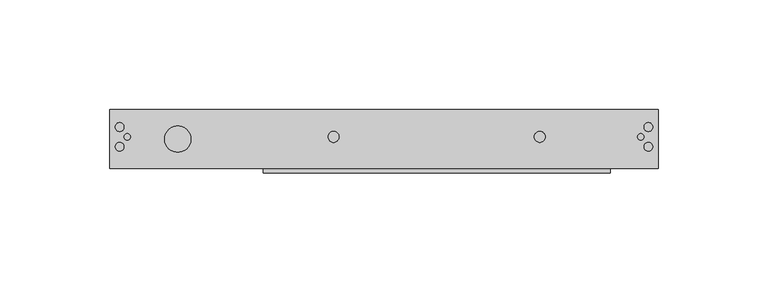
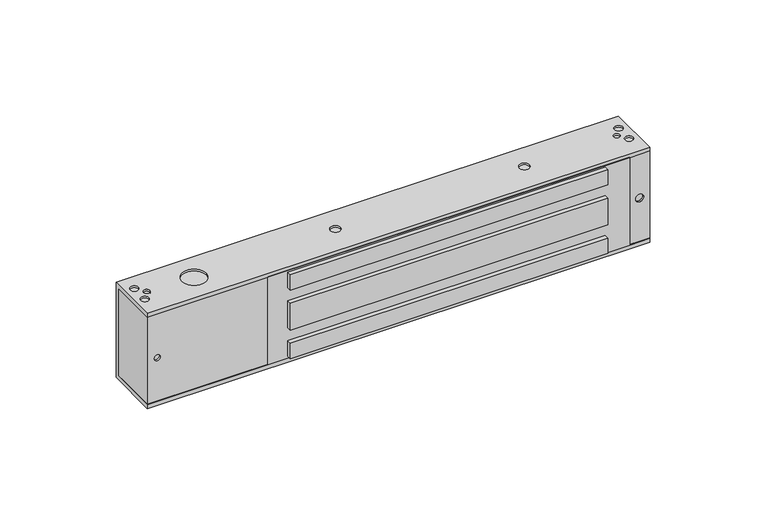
"""IFC4 building model written with IfcOpenShell, lengths in millimetres: proxy geometry, Электромагнитный_замок_ML-350ALN_AccordTec_R19 : Электромагнитный_замок_ML-350ALN_AccordTec_R19."""

import ifcopenshell
import ifcopenshell.guid

model = None  # the IFC model being written
_history = None  # IfcOwnerHistory: only IFC2X3 demands one
_inside = {}  # id of a spatial element -> (the spatial element, [elements in it])
_under = {}  # id of a project, library or spatial element -> (it, [spatial elements below it])
_declared = {}  # id of a project -> (the project, [libraries it declares])
_typed = {}  # id of a type object -> (the type object, [elements of that type])
_made_of = {}  # id of a material, layer set ... -> (it, [elements and type objects made of it])


def new_model(schema):
    """Start an empty IFC model of exactly this schema.

    Asked for "IFC4X3", IfcOpenShell would pick the latest addendum, in which some entities
    have other attributes; the version numbers below select the first issue.
    IFC2X3 requires an IfcOwnerHistory on every rooted entity: one is made here for all.
    """
    global model, _history
    if schema == "IFC4X3":
        model = ifcopenshell.file(schema_version=(4, 3, 0, 0))
    else:
        model = ifcopenshell.file(schema=schema)
    _inside.clear()
    _under.clear()
    _declared.clear()
    _typed.clear()
    _made_of.clear()
    _history = None
    if model.schema == "IFC2X3":
        org = make("IfcOrganization", Name="unknown")
        user = make(
            "IfcPersonAndOrganization",
            ThePerson=make("IfcPerson", FamilyName="unknown"),
            TheOrganization=org,
        )
        app = make(
            "IfcApplication",
            ApplicationDeveloper=org,
            Version="unknown",
            ApplicationFullName="unknown",
            ApplicationIdentifier="unknown",
        )
        _history = make(
            "IfcOwnerHistory",
            OwningUser=user,
            OwningApplication=app,
            ChangeAction="ADDED",
            CreationDate=0,
        )
    return model


def make(cls, **values):
    """One entity of the class cls with the attributes given. An attribute that is None is left unset."""
    return model.create_entity(
        cls, **{name: value for name, value in values.items() if value is not None}
    )


def rooted(cls, **values):
    """An entity with a GlobalId (a new one), such as an element, a storey or a relation."""
    return make(cls, GlobalId=ifcopenshell.guid.new(), OwnerHistory=_history, **values)


def si_unit(unit_type, name, prefix=None):
    """IfcSIUnit, for example si_unit("LENGTHUNIT", "METRE", prefix="MILLI")."""
    return make("IfcSIUnit", UnitType=unit_type, Prefix=prefix, Name=name)


def assignment(units):
    """IfcUnitAssignment: the units of a project."""
    return None if units is None else make("IfcUnitAssignment", Units=units)


def point(xyz):
    """IfcCartesianPoint."""
    return None if xyz is None else make("IfcCartesianPoint", Coordinates=xyz)


def direction(xyz):
    """IfcDirection."""
    return None if xyz is None else make("IfcDirection", DirectionRatios=xyz)


def frame(location, z_axis=None, x_axis=None):
    """IfcAxis2Placement3D, a coordinate frame: its origin and axes. An axis left out is left unset."""
    return make(
        "IfcAxis2Placement3D",
        Location=point(location),
        Axis=direction(z_axis),
        RefDirection=direction(x_axis),
    )


def origin():
    """The frame at (0, 0, 0) with its axes left unset."""
    return frame((0.0, 0.0, 0.0))


def place(relative_to, where):
    """IfcLocalPlacement: puts the frame where relative to a parent placement (None: the world)."""
    return make(
        "IfcLocalPlacement", PlacementRelTo=relative_to, RelativePlacement=where
    )


def context(
    kind, dimensions, precision=None, world=None, true_north=None, identifier=None
):
    """IfcGeometricRepresentationContext, for example the 3D "Model" context."""
    return make(
        "IfcGeometricRepresentationContext",
        ContextIdentifier=identifier,
        ContextType=kind,
        CoordinateSpaceDimension=dimensions,
        Precision=precision,
        WorldCoordinateSystem=world,
        TrueNorth=true_north,
    )


def project(units=None, contexts=None):
    """IfcProject with its units and contexts."""
    return rooted(
        "IfcProject",
        Name="project",
        RepresentationContexts=contexts,
        UnitsInContext=assignment(units),
    )


def spatial(cls, under=None, at=None, **own):
    """A site, building, storey or space (cls), placed at a placement, below another one or the project."""
    s = rooted(cls, ObjectPlacement=at, **own)
    if under is not None:
        _under.setdefault(under.id(), (under, []))[1].append(s)
    return s


def polyline(points):
    """IfcPolyline through the points."""
    return make("IfcPolyline", Points=[point(p) for p in points])


def circle_curve(where, radius):
    """IfcCircle in the frame where."""
    return make("IfcCircle", Position=where, Radius=radius)


def outline(outer, holes=None, kind="AREA"):
    """IfcArbitraryClosedProfileDef: a profile drawn as a closed curve; with holes, ...WithVoids."""
    if holes is None:
        return make("IfcArbitraryClosedProfileDef", ProfileType=kind, OuterCurve=outer)
    return make(
        "IfcArbitraryProfileDefWithVoids",
        ProfileType=kind,
        OuterCurve=outer,
        InnerCurves=holes,
    )


def extrude(swept, where, along, depth):
    """IfcExtrudedAreaSolid: the profile swept, set in the frame where, extruded along a direction by depth."""
    return make(
        "IfcExtrudedAreaSolid",
        SweptArea=swept,
        Position=where,
        ExtrudedDirection=direction(along),
        Depth=depth,
    )


def shape(context_of_items, identifier, shape_type, items):
    """IfcShapeRepresentation: the items that make up one representation, for example the "Body"."""
    return make(
        "IfcShapeRepresentation",
        ContextOfItems=context_of_items,
        RepresentationIdentifier=identifier,
        RepresentationType=shape_type,
        Items=items,
    )


def source(mapping_origin, context_of_items, identifier, shape_type, items):
    """IfcRepresentationMap: a shape defined once, which mapped items show again and again."""
    return make(
        "IfcRepresentationMap",
        MappingOrigin=mapping_origin,
        MappedRepresentation=shape(context_of_items, identifier, shape_type, items),
    )


def transform(
    local_origin,
    x_axis=None,
    y_axis=None,
    z_axis=None,
    scale=None,
    scale2=None,
    scale3=None,
    uniform=True,
):
    """IfcCartesianTransformationOperator3D, or its non-uniform kind. x_axis, y_axis, z_axis: its Axis1, 2, 3."""
    if uniform:
        return make(
            "IfcCartesianTransformationOperator3D",
            Axis1=direction(x_axis),
            Axis2=direction(y_axis),
            LocalOrigin=point(local_origin),
            Scale=scale,
            Axis3=direction(z_axis),
        )
    return make(
        "IfcCartesianTransformationOperator3DnonUniform",
        Axis1=direction(x_axis),
        Axis2=direction(y_axis),
        LocalOrigin=point(local_origin),
        Scale=scale,
        Axis3=direction(z_axis),
        Scale2=scale2,
        Scale3=scale3,
    )


def mapped(mapping_source, mapping_target):
    """IfcMappedItem: shows the shape of a source again, moved by a transform."""
    return make(
        "IfcMappedItem", MappingSource=mapping_source, MappingTarget=mapping_target
    )


def made_of(thing, what):
    """Note that an element or type object is made of a material, layer set ...; save() writes the relation."""
    if what is not None:
        _made_of.setdefault(what.id(), (what, []))[1].append(thing)
    return thing


def element(
    cls,
    number,
    at=None,
    inside=None,
    cuts=None,
    type_object=None,
    material=None,
    context=None,
    identifier="Body",
    shape_type=None,
    held_by="IfcProductDefinitionShape",
    body=None,
    shapes=None,
    **own,
):
    """One element of the class cls, such as IfcWall. Its Tag is "e" and its number.

    at: its placement. inside: the storey or other place that contains it. cuts: it is an
    opening in that element (IfcRelVoidsElement). A single representation is given by context,
    identifier, shape_type and body (its items); several are given by shapes. held_by: the class
    of the entity that holds the representations. save() writes the other relations.
    """
    e = rooted(cls, Tag="e%d" % number, ObjectPlacement=at, **own)
    if body is not None:
        shapes = [shape(context, identifier, shape_type, body)]
    if shapes is not None:
        e.Representation = make(held_by, Representations=shapes)
    if inside is not None:
        _inside.setdefault(inside.id(), (inside, []))[1].append(e)
    if cuts is not None:
        rooted(
            "IfcRelVoidsElement", RelatingBuildingElement=cuts, RelatedOpeningElement=e
        )
    if type_object is not None:
        _typed.setdefault(type_object.id(), (type_object, []))[1].append(e)
    return made_of(e, material)


def aggregate(whole, parts):
    """IfcRelAggregates: a whole, such as a stair, and the parts it consists of."""
    return rooted("IfcRelAggregates", RelatingObject=whole, RelatedObjects=parts)


def save(model, path):
    """Write the relations noted so far, then the file.

    IfcRelAggregates (storeys below a building ...), IfcRelContainedInSpatialStructure (elements
    in a storey), IfcRelDefinesByType, IfcRelAssociatesMaterial and IfcRelDeclares: one each for
    every whole, place, type object, material and project.
    """
    for whole, parts in _under.values():
        aggregate(whole, parts)
    for where, things in _inside.values():
        rooted(
            "IfcRelContainedInSpatialStructure",
            RelatedElements=things,
            RelatingStructure=where,
        )
    for kind, things in _typed.values():
        rooted("IfcRelDefinesByType", RelatedObjects=things, RelatingType=kind)
    for what, things in _made_of.values():
        rooted("IfcRelAssociatesMaterial", RelatedObjects=things, RelatingMaterial=what)
    for by, libraries in _declared.values():
        rooted("IfcRelDeclares", RelatingContext=by, RelatedDefinitions=libraries)
    model.write(path)


def plane_surface(at):
    """IfcPlane: the flat surface through the origin of the frame at, square to its z axis."""
    return make("IfcPlane", Position=at)


def revolved_surface(curve, axis_point, axis_direction):
    """IfcSurfaceOfRevolution: the curve turned about the line through axis_point along axis_direction."""
    return make(
        "IfcSurfaceOfRevolution",
        SweptCurve=make("IfcArbitraryOpenProfileDef", ProfileType="CURVE", Curve=curve),
        AxisPosition=make("IfcAxis1Placement", Location=point(axis_point), Axis=direction(axis_direction)),
    )


def advanced_brep(points, edges, surfaces, faces):
    """IfcAdvancedBrep: a solid bounded by faces that lie on surfaces and meet in shared edges.

    An edge is (start, end): straight between two places in points (the first is 0);
    or (start, end, curve); or (start, end, curve, False) where it runs against its curve.
    A face is (place in surfaces, loops), or (place, loops, False) where it looks against
    its surface's normal. A loop lists edges by number (the first is 1), with a minus sign
    where the edge is run from its end to its start. The first loop is the outer one.
    """
    corners = [point(p) for p in points]
    vertices = [make("IfcVertexPoint", VertexGeometry=c) for c in corners]
    made = []
    for start, end, *more in edges:
        made.append(
            make(
                "IfcEdgeCurve",
                EdgeStart=vertices[start],
                EdgeEnd=vertices[end],
                EdgeGeometry=more[0] if more else make("IfcPolyline", Points=[corners[start], corners[end]]),
                SameSense=more[1] if len(more) > 1 else True,
            )
        )
    hull = []
    for where, loops, *sense in faces:
        bounds = []
        for j, loop in enumerate(loops):
            ring = [make("IfcOrientedEdge", EdgeElement=made[abs(k) - 1], Orientation=k > 0) for k in loop]
            bounds.append(
                make(
                    "IfcFaceOuterBound" if j == 0 else "IfcFaceBound",
                    Bound=make("IfcEdgeLoop", EdgeList=ring),
                    Orientation=True,
                )
            )
        hull.append(make("IfcAdvancedFace", Bounds=bounds, FaceSurface=surfaces[where], SameSense=sense[0] if sense else True))
    return make("IfcAdvancedBrep", Outer=make("IfcClosedShell", CfsFaces=hull))


def generic_models_ae7c055c(model_context):
    return source(origin(), model_context, "Body", "SolidModel", [
        extrude(outline(polyline([(228.0, -2.0), (70.0, -2.0), (70.0, 1.0), (228.0, 1.0), (228.0, -2.0)])), frame((0.0, 0.0, 39.0), z_axis=(0.0, 0.0, 1.0), x_axis=(1.0, 0.0, 0.0)), (0.0, 0.0, 1.0), 8.0),
        extrude(outline(polyline([(228.0, -2.0), (70.0, -2.0), (70.0, 1.0), (228.0, 1.0), (228.0, -2.0)])), frame((0.0, 0.0, 18.0), z_axis=(0.0, 0.0, 1.0), x_axis=(1.0, 0.0, 0.0)), (0.0, 0.0, 1.0), 14.0),
        extrude(outline(polyline([(228.0, -2.0), (70.0, -2.0), (70.0, 1.0), (228.0, 1.0), (228.0, -2.0)])), frame((0.0, 0.0, 3.0), z_axis=(0.0, 0.0, 1.0), x_axis=(1.0, 0.0, 0.0)), (0.0, 0.0, 1.0), 8.0),
        extrude(outline(polyline([(48.0, 240.0), (48.0, 60.0), (2.0, 60.0), (2.0, 240.0), (48.0, 240.0)]), holes=[polyline([(47.0, 70.0), (47.0, 228.0), (39.0, 228.0), (39.0, 70.0), (47.0, 70.0)]), polyline([(32.0, 70.0), (32.0, 228.0), (18.0, 228.0), (18.0, 70.0), (32.0, 70.0)]), polyline([(11.0, 70.0), (11.0, 228.0), (3.0, 228.0), (3.0, 70.0), (11.0, 70.0)])]), frame((0.0, 0.0, 0.0), z_axis=(0.0, 1.0, 0.0), x_axis=(0.0, 0.0, 1.0)), (0.0, 0.0, 1.0), 1.0),
        advanced_brep(
        [(250.0, 0.0, 48.0), (250.0, 25.0, 48.0), (250.0, 25.0, 2.0), (250.0, 0.0, 2.0), (250.0, 0.0, 0.0), (250.0, 27.0, 0.0), (250.0, 27.0, 50.0), (250.0, 0.0, 50.0), (0.0, 0.0, 48.0), (0.0, 0.0, 50.0), (0.0, 27.0, 50.0), (0.0, 27.0, 0.0), (0.0, 0.0, 0.0), (0.0, 0.0, 2.0), (0.0, 25.0, 2.0), (0.0, 25.0, 48.0), (240.0, 0.0, 48.0), (60.0, 0.0, 48.0), (60.0, 0.0, 2.0), (240.0, 0.0, 2.0), (2.5, 19.0, 0.0), (6.5, 19.0, 0.0), (2.5, 10.0, 0.0), (6.5, 10.0, 0.0), (6.5, 14.5, 0.0), (9.5, 14.5, 0.0), (44.0, 14.5, 0.0), (56.0, 14.5, 0.0), (99.5, 14.5, 0.0), (104.5, 14.5, 0.0), (193.5, 14.5, 0.0), (198.5, 14.5, 0.0), (240.5, 14.5, 0.0), (243.5, 14.5, 0.0), (243.5, 10.0, 0.0), (247.5, 10.0, 0.0), (243.5, 19.0, 0.0), (247.5, 19.0, 0.0), (2.5, 19.0, 50.0), (6.5, 19.0, 50.0), (6.5, 14.5, 50.0), (9.5, 14.5, 50.0), (2.5, 10.0, 50.0), (6.5, 10.0, 50.0), (25.0, 13.5, 50.0), (37.0, 13.5, 50.0), (99.5, 14.5, 50.0), (104.5, 14.5, 50.0), (193.5, 14.5, 50.0), (198.5, 14.5, 50.0), (240.5, 14.5, 50.0), (243.5, 14.5, 50.0), (243.5, 19.0, 50.0), (247.5, 19.0, 50.0), (243.5, 10.0, 50.0), (247.5, 10.0, 50.0), (2.5, 19.0, 1.0), (6.5, 19.0, 1.0), (2.5, 10.0, 1.0), (6.5, 10.0, 1.0), (6.5, 14.5, 1.0), (9.5, 14.5, 1.0), (44.0, 14.5, 1.0), (56.0, 14.5, 1.0), (99.5, 14.5, 1.0), (104.5, 14.5, 1.0), (193.5, 14.5, 1.0), (198.5, 14.5, 1.0), (240.5, 14.5, 1.0), (243.5, 14.5, 1.0), (243.5, 10.0, 1.0), (247.5, 10.0, 1.0), (243.5, 19.0, 1.0), (247.5, 19.0, 1.0), (2.5, 19.0, 49.0), (6.5, 19.0, 49.0), (6.5, 14.5, 49.0), (9.5, 14.5, 49.0), (2.5, 10.0, 49.0), (6.5, 10.0, 49.0), (25.0, 13.5, 49.0), (37.0, 13.5, 49.0), (99.5, 14.5, 49.0), (104.5, 14.5, 49.0), (193.5, 14.5, 49.0), (198.5, 14.5, 49.0), (240.5, 14.5, 49.0), (243.5, 14.5, 49.0), (243.5, 19.0, 49.0), (247.5, 19.0, 49.0), (243.5, 10.0, 49.0), (247.5, 10.0, 49.0)],
        [
            (0, 1),
            (1, 2),
            (2, 3),
            (3, 4),
            (4, 5),
            (5, 6),
            (6, 7),
            (7, 0),
            (8, 9),
            (9, 10),
            (10, 11),
            (11, 12),
            (12, 13),
            (13, 14),
            (14, 15),
            (15, 8),
            (0, 16),
            (16, 17),
            (17, 8),
            (15, 1),
            (14, 2),
            (13, 18),
            (18, 19),
            (19, 3),
            (12, 4),
            (11, 5),
            (20, 21, circle_curve(frame((4.5, 19.0, 0.0), z_axis=(0.0, 0.0, 1.0), x_axis=(1.0, 0.0, 0.0)), 2.0)),
            (21, 20, circle_curve(frame((4.5, 19.0, 0.0), z_axis=(0.0, 0.0, 1.0), x_axis=(1.0, 0.0, 0.0)), 2.0)),
            (22, 23, circle_curve(frame((4.5, 10.0, 0.0), z_axis=(0.0, 0.0, 1.0), x_axis=(1.0, 0.0, 0.0)), 2.0)),
            (23, 22, circle_curve(frame((4.5, 10.0, 0.0), z_axis=(0.0, 0.0, 1.0), x_axis=(1.0, 0.0, 0.0)), 2.0)),
            (24, 25, circle_curve(frame((8.0, 14.5, 0.0), z_axis=(0.0, 0.0, 1.0), x_axis=(1.0, 0.0, 0.0)), 1.5)),
            (25, 24, circle_curve(frame((8.0, 14.5, 0.0), z_axis=(0.0, 0.0, 1.0), x_axis=(1.0, 0.0, 0.0)), 1.5)),
            (26, 27, circle_curve(frame((50.0, 14.5, 0.0), z_axis=(0.0, 0.0, 1.0), x_axis=(1.0, 0.0, 0.0)), 6.0)),
            (27, 26, circle_curve(frame((50.0, 14.5, 0.0), z_axis=(0.0, 0.0, 1.0), x_axis=(1.0, 0.0, 0.0)), 6.0)),
            (28, 29, circle_curve(frame((102.0, 14.5, 0.0), z_axis=(0.0, 0.0, 1.0), x_axis=(1.0, 0.0, 0.0)), 2.5)),
            (29, 28, circle_curve(frame((102.0, 14.5, 0.0), z_axis=(0.0, 0.0, 1.0), x_axis=(1.0, 0.0, 0.0)), 2.5)),
            (30, 31, circle_curve(frame((196.0, 14.5, 0.0), z_axis=(0.0, 0.0, 1.0), x_axis=(1.0, 0.0, 0.0)), 2.5)),
            (31, 30, circle_curve(frame((196.0, 14.5, 0.0), z_axis=(0.0, 0.0, 1.0), x_axis=(1.0, 0.0, 0.0)), 2.5)),
            (32, 33, circle_curve(frame((242.0, 14.5, 0.0), z_axis=(0.0, 0.0, 1.0), x_axis=(1.0, 0.0, 0.0)), 1.5)),
            (33, 32, circle_curve(frame((242.0, 14.5, 0.0), z_axis=(0.0, 0.0, 1.0), x_axis=(1.0, 0.0, 0.0)), 1.5)),
            (34, 35, circle_curve(frame((245.5, 10.0, 0.0), z_axis=(0.0, 0.0, 1.0), x_axis=(1.0, 0.0, 0.0)), 2.0)),
            (35, 34, circle_curve(frame((245.5, 10.0, 0.0), z_axis=(0.0, 0.0, 1.0), x_axis=(1.0, 0.0, 0.0)), 2.0)),
            (36, 37, circle_curve(frame((245.5, 19.0, 0.0), z_axis=(0.0, 0.0, 1.0), x_axis=(1.0, 0.0, 0.0)), 2.0)),
            (37, 36, circle_curve(frame((245.5, 19.0, 0.0), z_axis=(0.0, 0.0, 1.0), x_axis=(1.0, 0.0, 0.0)), 2.0)),
            (10, 6),
            (9, 7),
            (38, 39, circle_curve(frame((4.5, 19.0, 50.0), z_axis=(0.0, 0.0, -1.0), x_axis=(1.0, 0.0, 0.0)), 2.0)),
            (39, 38, circle_curve(frame((4.5, 19.0, 50.0), z_axis=(0.0, 0.0, -1.0), x_axis=(1.0, 0.0, 0.0)), 2.0)),
            (40, 41, circle_curve(frame((8.0, 14.5, 50.0), z_axis=(0.0, 0.0, -1.0), x_axis=(1.0, 0.0, 0.0)), 1.5)),
            (41, 40, circle_curve(frame((8.0, 14.5, 50.0), z_axis=(0.0, 0.0, -1.0), x_axis=(1.0, 0.0, 0.0)), 1.5)),
            (42, 43, circle_curve(frame((4.5, 10.0, 50.0), z_axis=(0.0, 0.0, -1.0), x_axis=(1.0, 0.0, 0.0)), 2.0)),
            (43, 42, circle_curve(frame((4.5, 10.0, 50.0), z_axis=(0.0, 0.0, -1.0), x_axis=(1.0, 0.0, 0.0)), 2.0)),
            (44, 45, circle_curve(frame((31.0, 13.5, 50.0), z_axis=(0.0, 0.0, -1.0), x_axis=(1.0, 0.0, 0.0)), 6.0)),
            (45, 44, circle_curve(frame((31.0, 13.5, 50.0), z_axis=(0.0, 0.0, -1.0), x_axis=(1.0, 0.0, 0.0)), 6.0)),
            (46, 47, circle_curve(frame((102.0, 14.5, 50.0), z_axis=(0.0, 0.0, -1.0), x_axis=(1.0, 0.0, 0.0)), 2.5)),
            (47, 46, circle_curve(frame((102.0, 14.5, 50.0), z_axis=(0.0, 0.0, -1.0), x_axis=(1.0, 0.0, 0.0)), 2.5)),
            (48, 49, circle_curve(frame((196.0, 14.5, 50.0), z_axis=(0.0, 0.0, -1.0), x_axis=(1.0, 0.0, 0.0)), 2.5)),
            (49, 48, circle_curve(frame((196.0, 14.5, 50.0), z_axis=(0.0, 0.0, -1.0), x_axis=(1.0, 0.0, 0.0)), 2.5)),
            (50, 51, circle_curve(frame((242.0, 14.5, 50.0), z_axis=(0.0, 0.0, -1.0), x_axis=(1.0, 0.0, 0.0)), 1.5)),
            (51, 50, circle_curve(frame((242.0, 14.5, 50.0), z_axis=(0.0, 0.0, -1.0), x_axis=(1.0, 0.0, 0.0)), 1.5)),
            (52, 53, circle_curve(frame((245.5, 19.0, 50.0), z_axis=(0.0, 0.0, -1.0), x_axis=(1.0, 0.0, 0.0)), 2.0)),
            (53, 52, circle_curve(frame((245.5, 19.0, 50.0), z_axis=(0.0, 0.0, -1.0), x_axis=(1.0, 0.0, 0.0)), 2.0)),
            (54, 55, circle_curve(frame((245.5, 10.0, 50.0), z_axis=(0.0, 0.0, -1.0), x_axis=(1.0, 0.0, 0.0)), 2.0)),
            (55, 54, circle_curve(frame((245.5, 10.0, 50.0), z_axis=(0.0, 0.0, -1.0), x_axis=(1.0, 0.0, 0.0)), 2.0)),
            (56, 57, circle_curve(frame((4.5, 19.0, 1.0), z_axis=(0.0, 0.0, -1.0), x_axis=(1.0, 0.0, 0.0)), 2.0)),
            (57, 56, circle_curve(frame((4.5, 19.0, 1.0), z_axis=(0.0, 0.0, -1.0), x_axis=(1.0, 0.0, 0.0)), 2.0)),
            (58, 59, circle_curve(frame((4.5, 10.0, 1.0), z_axis=(0.0, 0.0, -1.0), x_axis=(1.0, 0.0, 0.0)), 2.0)),
            (59, 58, circle_curve(frame((4.5, 10.0, 1.0), z_axis=(0.0, 0.0, -1.0), x_axis=(1.0, 0.0, 0.0)), 2.0)),
            (60, 61, circle_curve(frame((8.0, 14.5, 1.0), z_axis=(0.0, 0.0, -1.0), x_axis=(1.0, 0.0, 0.0)), 1.5)),
            (61, 60, circle_curve(frame((8.0, 14.5, 1.0), z_axis=(0.0, 0.0, -1.0), x_axis=(1.0, 0.0, 0.0)), 1.5)),
            (62, 63, circle_curve(frame((50.0, 14.5, 1.0), z_axis=(0.0, 0.0, -1.0), x_axis=(1.0, 0.0, 0.0)), 6.0)),
            (63, 62, circle_curve(frame((50.0, 14.5, 1.0), z_axis=(0.0, 0.0, -1.0), x_axis=(1.0, 0.0, 0.0)), 6.0)),
            (64, 65, circle_curve(frame((102.0, 14.5, 1.0), z_axis=(0.0, 0.0, -1.0), x_axis=(1.0, 0.0, 0.0)), 2.5)),
            (65, 64, circle_curve(frame((102.0, 14.5, 1.0), z_axis=(0.0, 0.0, -1.0), x_axis=(1.0, 0.0, 0.0)), 2.5)),
            (66, 67, circle_curve(frame((196.0, 14.5, 1.0), z_axis=(0.0, 0.0, -1.0), x_axis=(1.0, 0.0, 0.0)), 2.5)),
            (67, 66, circle_curve(frame((196.0, 14.5, 1.0), z_axis=(0.0, 0.0, -1.0), x_axis=(1.0, 0.0, 0.0)), 2.5)),
            (68, 69, circle_curve(frame((242.0, 14.5, 1.0), z_axis=(0.0, 0.0, -1.0), x_axis=(1.0, 0.0, 0.0)), 1.5)),
            (69, 68, circle_curve(frame((242.0, 14.5, 1.0), z_axis=(0.0, 0.0, -1.0), x_axis=(1.0, 0.0, 0.0)), 1.5)),
            (70, 71, circle_curve(frame((245.5, 10.0, 1.0), z_axis=(0.0, 0.0, -1.0), x_axis=(1.0, 0.0, 0.0)), 2.0)),
            (71, 70, circle_curve(frame((245.5, 10.0, 1.0), z_axis=(0.0, 0.0, -1.0), x_axis=(1.0, 0.0, 0.0)), 2.0)),
            (72, 73, circle_curve(frame((245.5, 19.0, 1.0), z_axis=(0.0, 0.0, -1.0), x_axis=(1.0, 0.0, 0.0)), 2.0)),
            (73, 72, circle_curve(frame((245.5, 19.0, 1.0), z_axis=(0.0, 0.0, -1.0), x_axis=(1.0, 0.0, 0.0)), 2.0)),
            (57, 21),
            (20, 56),
            (59, 23),
            (22, 58),
            (61, 25),
            (24, 60),
            (63, 27),
            (26, 62),
            (65, 29),
            (28, 64),
            (67, 31),
            (30, 66),
            (69, 33),
            (32, 68),
            (71, 35),
            (34, 70),
            (73, 37),
            (36, 72),
            (74, 75, circle_curve(frame((4.5, 19.0, 49.0), z_axis=(0.0, 0.0, 1.0), x_axis=(1.0, 0.0, 0.0)), 2.0)),
            (75, 74, circle_curve(frame((4.5, 19.0, 49.0), z_axis=(0.0, 0.0, 1.0), x_axis=(1.0, 0.0, 0.0)), 2.0)),
            (76, 77, circle_curve(frame((8.0, 14.5, 49.0), z_axis=(0.0, 0.0, 1.0), x_axis=(1.0, 0.0, 0.0)), 1.5)),
            (77, 76, circle_curve(frame((8.0, 14.5, 49.0), z_axis=(0.0, 0.0, 1.0), x_axis=(1.0, 0.0, 0.0)), 1.5)),
            (78, 79, circle_curve(frame((4.5, 10.0, 49.0), z_axis=(0.0, 0.0, 1.0), x_axis=(1.0, 0.0, 0.0)), 2.0)),
            (79, 78, circle_curve(frame((4.5, 10.0, 49.0), z_axis=(0.0, 0.0, 1.0), x_axis=(1.0, 0.0, 0.0)), 2.0)),
            (80, 81, circle_curve(frame((31.0, 13.5, 49.0), z_axis=(0.0, 0.0, 1.0), x_axis=(1.0, 0.0, 0.0)), 6.0)),
            (81, 80, circle_curve(frame((31.0, 13.5, 49.0), z_axis=(0.0, 0.0, 1.0), x_axis=(1.0, 0.0, 0.0)), 6.0)),
            (82, 83, circle_curve(frame((102.0, 14.5, 49.0), z_axis=(0.0, 0.0, 1.0), x_axis=(1.0, 0.0, 0.0)), 2.5)),
            (83, 82, circle_curve(frame((102.0, 14.5, 49.0), z_axis=(0.0, 0.0, 1.0), x_axis=(1.0, 0.0, 0.0)), 2.5)),
            (84, 85, circle_curve(frame((196.0, 14.5, 49.0), z_axis=(0.0, 0.0, 1.0), x_axis=(1.0, 0.0, 0.0)), 2.5)),
            (85, 84, circle_curve(frame((196.0, 14.5, 49.0), z_axis=(0.0, 0.0, 1.0), x_axis=(1.0, 0.0, 0.0)), 2.5)),
            (86, 87, circle_curve(frame((242.0, 14.5, 49.0), z_axis=(0.0, 0.0, 1.0), x_axis=(1.0, 0.0, 0.0)), 1.5)),
            (87, 86, circle_curve(frame((242.0, 14.5, 49.0), z_axis=(0.0, 0.0, 1.0), x_axis=(1.0, 0.0, 0.0)), 1.5)),
            (88, 89, circle_curve(frame((245.5, 19.0, 49.0), z_axis=(0.0, 0.0, 1.0), x_axis=(1.0, 0.0, 0.0)), 2.0)),
            (89, 88, circle_curve(frame((245.5, 19.0, 49.0), z_axis=(0.0, 0.0, 1.0), x_axis=(1.0, 0.0, 0.0)), 2.0)),
            (90, 91, circle_curve(frame((245.5, 10.0, 49.0), z_axis=(0.0, 0.0, 1.0), x_axis=(1.0, 0.0, 0.0)), 2.0)),
            (91, 90, circle_curve(frame((245.5, 10.0, 49.0), z_axis=(0.0, 0.0, 1.0), x_axis=(1.0, 0.0, 0.0)), 2.0)),
            (75, 39),
            (38, 74),
            (77, 41),
            (40, 76),
            (79, 43),
            (42, 78),
            (81, 45),
            (44, 80),
            (83, 47),
            (46, 82),
            (85, 49),
            (48, 84),
            (87, 51),
            (50, 86),
            (89, 53),
            (52, 88),
            (91, 55),
            (54, 90),
        ],
        [
            plane_surface(frame((250.0, 0.0, 48.0), z_axis=(1.0, 0.0, 0.0), x_axis=(0.0, 1.0, 0.0))),
            plane_surface(frame((0.0, 0.0, 48.0), z_axis=(-1.0, 0.0, 0.0), x_axis=(0.0, -1.0, 0.0))),
            plane_surface(frame((250.0, 0.0, 48.0), z_axis=(0.0, 0.0, -1.0), x_axis=(-1.0, 0.0, 0.0))),
            plane_surface(frame((250.0, 25.0, 48.0), z_axis=(0.0, -1.0, 0.0), x_axis=(-1.0, 0.0, 0.0))),
            plane_surface(frame((250.0, 25.0, 2.0), z_axis=(0.0, 0.0, 1.0), x_axis=(-1.0, 0.0, 0.0))),
            plane_surface(frame((250.0, 0.0, 2.0), z_axis=(0.0, -1.0, 0.0), x_axis=(-1.0, 0.0, 0.0))),
            plane_surface(frame((250.0, 0.0, 0.0), z_axis=(0.0, 0.0, -1.0), x_axis=(-1.0, 0.0, 0.0))),
            plane_surface(frame((250.0, 27.0, 0.0), z_axis=(0.0, 1.0, 0.0), x_axis=(-1.0, 0.0, 0.0))),
            plane_surface(frame((250.0, 27.0, 50.0), z_axis=(0.0, 0.0, 1.0), x_axis=(-1.0, 0.0, 0.0))),
            plane_surface(frame((250.0, 0.0, 50.0), z_axis=(0.0, -1.0, 0.0), x_axis=(-1.0, 0.0, 0.0))),
            plane_surface(frame((6.5, 19.0, 1.0), z_axis=(0.0, 0.0, -1.0), x_axis=(0.0, 1.0, 0.0))),
            revolved_surface(polyline([(6.5, 19.0, 1.0), (6.5, 19.0, 0.0)]), (4.5, 19.0, -1.0), (0.0, 0.0, 1.0)),
            revolved_surface(polyline([(6.5, 10.0, 1.0), (6.5, 10.0, 0.0)]), (4.5, 10.0, 0.0), (0.0, 0.0, 1.0)),
            revolved_surface(polyline([(9.5, 14.5, 1.0), (9.5, 14.5, 0.0)]), (8.0, 14.5, 0.0), (0.0, 0.0, 1.0)),
            revolved_surface(polyline([(56.0, 14.5, 1.0), (56.0, 14.5, 0.0)]), (50.0, 14.5, 0.0), (0.0, 0.0, 1.0)),
            revolved_surface(polyline([(104.5, 14.5, 1.0), (104.5, 14.5, 0.0)]), (102.0, 14.5, 0.0), (0.0, 0.0, 1.0)),
            revolved_surface(polyline([(198.5, 14.5, 1.0), (198.5, 14.5, 0.0)]), (196.0, 14.5, 0.0), (0.0, 0.0, 1.0)),
            revolved_surface(polyline([(243.5, 14.5, 1.0), (243.5, 14.5, 0.0)]), (242.0, 14.5, 0.0), (0.0, 0.0, 1.0)),
            revolved_surface(polyline([(247.5, 10.0, 1.0), (247.5, 10.0, 0.0)]), (245.5, 10.0, 0.0), (0.0, 0.0, 1.0)),
            revolved_surface(polyline([(247.5, 19.0, 1.0), (247.5, 19.0, 0.0)]), (245.5, 19.0, 0.0), (0.0, 0.0, 1.0)),
            plane_surface(frame((6.5, 19.0, 49.0), z_axis=(0.0, 0.0, 1.0), x_axis=(0.0, -1.0, 0.0))),
            revolved_surface(polyline([(6.5, 19.0, 49.0), (6.5, 19.0, 50.0)]), (4.5, 19.0, 51.0), (0.0, 0.0, -1.0)),
            revolved_surface(polyline([(9.5, 14.5, 49.0), (9.5, 14.5, 50.0)]), (8.0, 14.5, 50.0), (0.0, 0.0, -1.0)),
            revolved_surface(polyline([(6.5, 10.0, 49.0), (6.5, 10.0, 50.0)]), (4.5, 10.0, 50.0), (0.0, 0.0, -1.0)),
            revolved_surface(polyline([(37.0, 13.5, 49.0), (37.0, 13.5, 50.0)]), (31.0, 13.5, 50.0), (0.0, 0.0, -1.0)),
            revolved_surface(polyline([(104.5, 14.5, 49.0), (104.5, 14.5, 50.0)]), (102.0, 14.5, 50.0), (0.0, 0.0, -1.0)),
            revolved_surface(polyline([(198.5, 14.5, 49.0), (198.5, 14.5, 50.0)]), (196.0, 14.5, 50.0), (0.0, 0.0, -1.0)),
            revolved_surface(polyline([(243.5, 14.5, 49.0), (243.5, 14.5, 50.0)]), (242.0, 14.5, 50.0), (0.0, 0.0, -1.0)),
            revolved_surface(polyline([(247.5, 19.0, 49.0), (247.5, 19.0, 50.0)]), (245.5, 19.0, 50.0), (0.0, 0.0, -1.0)),
            revolved_surface(polyline([(247.5, 10.0, 49.0), (247.5, 10.0, 50.0)]), (245.5, 10.0, 50.0), (0.0, 0.0, -1.0)),
        ],
        [
            (0, [[1, 2, 3, 4, 5, 6, 7, 8]]),
            (1, [[9, 10, 11, 12, 13, 14, 15, 16]]),
            (2, [[-1, 17, 18, 19, -16, 20]]),
            (3, [[-2, -20, -15, 21]]),
            (4, [[-3, -21, -14, 22, 23, 24]]),
            (5, [[-4, -24, -23, -22, -13, 25]]),
            (6, [[-5, -25, -12, 26], [27, 28], [29, 30], [31, 32], [33, 34], [35, 36], [37, 38], [39, 40], [41, 42], [43, 44]]),
            (7, [[-6, -26, -11, 45]]),
            (8, [[-7, -45, -10, 46], [47, 48], [49, 50], [51, 52], [53, 54], [55, 56], [57, 58], [59, 60], [61, 62], [63, 64]]),
            (9, [[-8, -46, -9, -19, -18, -17]]),
            (10, [[65, 66]]),
            (10, [[67, 68]]),
            (10, [[69, 70]]),
            (10, [[71, 72]]),
            (10, [[73, 74]]),
            (10, [[75, 76]]),
            (10, [[77, 78]]),
            (10, [[79, 80]]),
            (10, [[81, 82]]),
            (11, [[-66, 83, -27, 84]]),
            (11, [[-65, -84, -28, -83]]),
            (12, [[-68, 85, -29, 86]]),
            (12, [[-67, -86, -30, -85]]),
            (13, [[-70, 87, -31, 88]]),
            (13, [[-69, -88, -32, -87]]),
            (14, [[-72, 89, -33, 90]]),
            (14, [[-71, -90, -34, -89]]),
            (15, [[-74, 91, -35, 92]]),
            (15, [[-73, -92, -36, -91]]),
            (16, [[-76, 93, -37, 94]]),
            (16, [[-75, -94, -38, -93]]),
            (17, [[-78, 95, -39, 96]]),
            (17, [[-77, -96, -40, -95]]),
            (18, [[-80, 97, -41, 98]]),
            (18, [[-79, -98, -42, -97]]),
            (19, [[-82, 99, -43, 100]]),
            (19, [[-81, -100, -44, -99]]),
            (20, [[101, 102]]),
            (20, [[103, 104]]),
            (20, [[105, 106]]),
            (20, [[107, 108]]),
            (20, [[109, 110]]),
            (20, [[111, 112]]),
            (20, [[113, 114]]),
            (20, [[115, 116]]),
            (20, [[117, 118]]),
            (21, [[-102, 119, -47, 120]]),
            (21, [[-101, -120, -48, -119]]),
            (22, [[-104, 121, -49, 122]]),
            (22, [[-103, -122, -50, -121]]),
            (23, [[-106, 123, -51, 124]]),
            (23, [[-105, -124, -52, -123]]),
            (24, [[-108, 125, -53, 126]]),
            (24, [[-107, -126, -54, -125]]),
            (25, [[-110, 127, -55, 128]]),
            (25, [[-109, -128, -56, -127]]),
            (26, [[-112, 129, -57, 130]]),
            (26, [[-111, -130, -58, -129]]),
            (27, [[-114, 131, -59, 132]]),
            (27, [[-113, -132, -60, -131]]),
            (28, [[-116, 133, -61, 134]]),
            (28, [[-115, -134, -62, -133]]),
            (29, [[-118, 135, -63, 136]]),
            (29, [[-117, -136, -64, -135]]),
        ],
    ),
        advanced_brep(
        [(0.0, 0.0, 2.0), (0.0, 0.0, 48.0), (0.0, 25.0, 48.0), (0.0, 25.0, 2.0), (60.0, 0.0, 2.0), (60.0, 0.0, 48.0), (6.5, 0.0, 25.0), (3.5, 0.0, 25.0), (250.0, 0.0, 2.0), (250.0, 0.0, 48.0), (240.0, 0.0, 48.0), (240.0, 0.0, 2.0), (247.0, 0.0, 25.0), (243.0, 0.0, 25.0), (250.0, 25.0, 2.0), (250.0, 25.0, 48.0), (60.0, 1.0, 48.0), (240.0, 1.0, 48.0), (240.0, 1.0, 2.0), (60.0, 1.0, 2.0), (3.5, 1.0, 25.0), (6.5, 1.0, 25.0), (243.0, 1.0, 25.0), (247.0, 1.0, 25.0)],
        [
            (0, 1),
            (1, 2),
            (2, 3),
            (3, 0),
            (0, 4),
            (4, 5),
            (5, 1),
            (6, 7, circle_curve(frame((5.0, 0.0, 25.0), z_axis=(0.0, 1.0, 0.0), x_axis=(1.0, 0.0, 0.0)), 1.5)),
            (7, 6, circle_curve(frame((5.0, 0.0, 25.0), z_axis=(0.0, 1.0, 0.0), x_axis=(1.0, 0.0, 0.0)), 1.5)),
            (8, 9),
            (9, 10),
            (10, 11),
            (11, 8),
            (12, 13, circle_curve(frame((245.0, 0.0, 25.0), z_axis=(0.0, 1.0, 0.0), x_axis=(1.0, 0.0, 0.0)), 2.0)),
            (13, 12, circle_curve(frame((245.0, 0.0, 25.0), z_axis=(0.0, 1.0, 0.0), x_axis=(1.0, 0.0, 0.0)), 2.0)),
            (8, 14),
            (14, 15),
            (15, 9),
            (15, 2),
            (5, 16),
            (16, 17),
            (17, 10),
            (14, 3),
            (11, 18),
            (18, 19),
            (19, 4),
            (16, 19),
            (18, 17),
            (20, 21, circle_curve(frame((5.0, 1.0, 25.0), z_axis=(0.0, -1.0, 0.0), x_axis=(1.0, 0.0, 0.0)), 1.5)),
            (21, 20, circle_curve(frame((5.0, 1.0, 25.0), z_axis=(0.0, -1.0, 0.0), x_axis=(1.0, 0.0, 0.0)), 1.5)),
            (22, 23, circle_curve(frame((245.0, 1.0, 25.0), z_axis=(0.0, -1.0, 0.0), x_axis=(1.0, 0.0, 0.0)), 2.0)),
            (23, 22, circle_curve(frame((245.0, 1.0, 25.0), z_axis=(0.0, -1.0, 0.0), x_axis=(1.0, 0.0, 0.0)), 2.0)),
            (20, 7),
            (6, 21),
            (22, 13),
            (12, 23),
        ],
        [
            plane_surface(frame((0.0, 27.0, 50.0), z_axis=(-1.0, 0.0, 0.0), x_axis=(0.0, 0.0, -1.0))),
            plane_surface(frame((0.0, 0.0, 50.0), z_axis=(0.0, -1.0, 0.0), x_axis=(0.0, 0.0, -1.0))),
            plane_surface(frame((250.0, 0.0, 50.0), z_axis=(1.0, 0.0, 0.0), x_axis=(0.0, 0.0, -1.0))),
            plane_surface(frame((250.0, 0.0, 48.0), z_axis=(0.0, 0.0, 1.0), x_axis=(-1.0, 0.0, 0.0))),
            plane_surface(frame((250.0, 25.0, 48.0), z_axis=(0.0, 1.0, 0.0), x_axis=(-1.0, 0.0, 0.0))),
            plane_surface(frame((250.0, 25.0, 2.0), z_axis=(0.0, 0.0, -1.0), x_axis=(-1.0, 0.0, 0.0))),
            plane_surface(frame((60.0, 1.0, 48.0), z_axis=(0.0, -1.0, 0.0), x_axis=(1.0, 0.0, 0.0))),
            plane_surface(frame((60.0, -1.0, 48.0), z_axis=(1.0, 0.0, 0.0), x_axis=(0.0, 1.0, 0.0))),
            plane_surface(frame((240.0, -1.0, 2.0), z_axis=(-1.0, 0.0, 0.0), x_axis=(0.0, 1.0, 0.0))),
            plane_surface(frame((6.5, 1.0, 25.0), z_axis=(0.0, -1.0, 0.0), x_axis=(0.0, 0.0, -1.0))),
            revolved_surface(polyline([(6.5, 0.0, 25.0), (6.5, 1.0, 25.0)]), (5.0, 1.0, 25.0), (0.0, -1.0, 0.0)),
            revolved_surface(polyline([(247.0, 0.0, 25.0), (247.0, 1.0, 25.0)]), (245.0, 0.0, 25.0), (0.0, -1.0, 0.0)),
        ],
        [
            (0, [[1, 2, 3, 4]]),
            (1, [[-1, 5, 6, 7], [8, 9]]),
            (1, [[10, 11, 12, 13], [14, 15]]),
            (2, [[-10, 16, 17, 18]]),
            (3, [[19, -2, -7, 20, 21, 22, -11, -18]]),
            (4, [[-19, -17, 23, -3]]),
            (5, [[-23, -16, -13, 24, 25, 26, -5, -4]]),
            (6, [[27, -25, 28, -21]]),
            (7, [[-27, -20, -6, -26]]),
            (8, [[-28, -24, -12, -22]]),
            (9, [[29, 30]]),
            (9, [[31, 32]]),
            (10, [[-29, 33, -8, 34]]),
            (10, [[-30, -34, -9, -33]]),
            (11, [[-31, 35, -14, 36]]),
            (11, [[-32, -36, -15, -35]]),
        ],
    ),
    ])


if __name__ == "__main__":
    model = new_model("IFC4")
    model_context = context("Model", 3, world=origin())
    ifc_project = project(units=[si_unit("LENGTHUNIT", "METRE", prefix="MILLI")], contexts=[model_context])
    site = spatial("IfcSite", under=ifc_project)
    building = spatial("IfcBuilding", under=site)
    placement = place(None, origin())
    generic_models_shape = generic_models_ae7c055c(model_context)
    element("IfcBuildingElementProxy", 1, Name="Электромагнитный_замок_ML-350ALN_AccordTec_R19 : Электромагнитный_замок_ML-350ALN_AccordTec_R19", ObjectType="Электромагнитный_замок_ML-350ALN_AccordTec_R19 : Электромагнитный_замок_ML-350ALN_AccordTec_R19", at=placement, inside=building, context=model_context, shape_type="MappedRepresentation", body=[
        mapped(generic_models_shape, transform((0.0, 0.0, 0.0), x_axis=(1.0, 0.0, 0.0), y_axis=(0.0, 1.0, 0.0), z_axis=(0.0, 0.0, 1.0))),
    ])
    save(model, "model.ifc")
